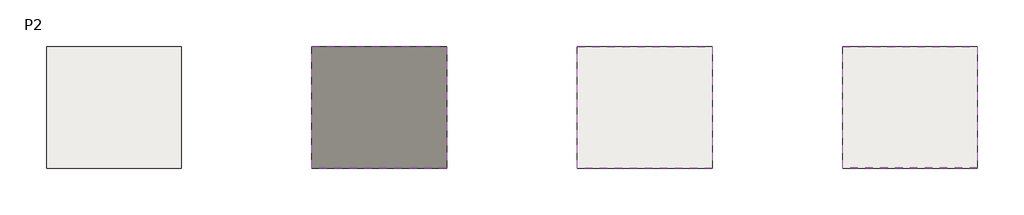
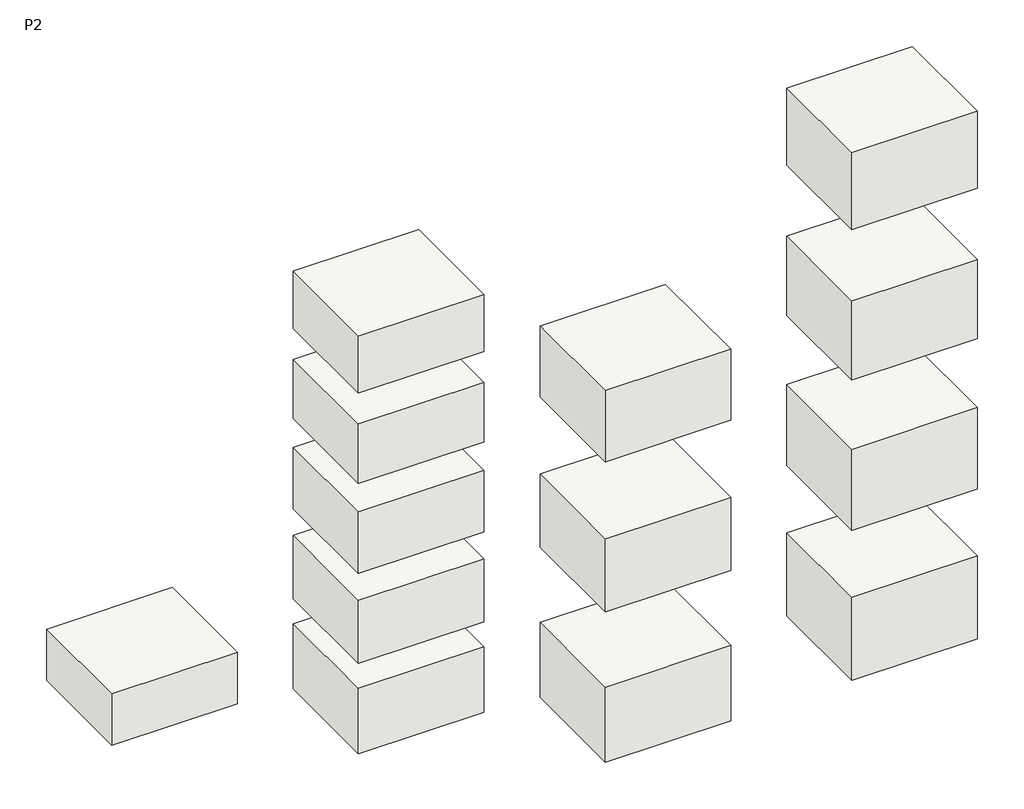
# One storey: 13 slabs.
"""IFC4 building model written with IfcOpenShell, lengths in millimetres."""

from ifc_helpers import new_model, si_unit, frame, origin, place, context, project, spatial, polyline, outline, extrude, element, save

model = new_model("IFC4")

# Units and contexts
model_context = context("Model", 3, world=origin())
ifc_project = project(units=[si_unit("LENGTHUNIT", "METRE", prefix="MILLI")], contexts=[model_context])

# Site, building, storey
site = spatial("IfcSite", under=ifc_project)
building = spatial("IfcBuilding", under=site)
storey = spatial("IfcBuildingStorey", under=building, Name="P2", Elevation=6000.0)

# Slabs
placement = place(None, origin())
element("IfcSlab", 1, ObjectType="INTERCAPEDINE VENTILATA H120", at=placement, inside=storey, context=model_context, shape_type="SweptSolid", body=[
    extrude(outline(polyline([(-4256.1937558, 1686.0689128), (-4256.1937558, -1013.9310872), (-7256.1937558, -1013.9310872), (-7256.1937558, 1686.0689128), (-4256.1937558, 1686.0689128)])), frame((0.0, 0.0, 5770.0000022), z_axis=(0.0, 0.0, 1.0), x_axis=(1.0, 0.0, 0.0)), (0.0, 0.0, 1.0), 1300.0),
])
element("IfcSlab", 2, ObjectType="INTERCAPEDINE VENTILATA H135", at=placement, inside=storey, context=model_context, shape_type="SweptSolid", body=[
    extrude(outline(polyline([(1643.8062442, 1686.0689128), (1643.8062442, -1013.9310872), (-1356.1937558, -1013.9310872), (-1356.1937558, 1686.0689128), (1643.8062442, 1686.0689128)])), frame((0.0, 0.0, 12610.0000022), z_axis=(0.0, 0.0, 1.0), x_axis=(1.0, 0.0, 0.0)), (0.0, 0.0, 1.0), 1450.0),
])
element("IfcSlab", 3, ObjectType="INTERCAPEDINE VENTILATA H140", at=placement, inside=storey, context=model_context, shape_type="SweptSolid", body=[
    extrude(outline(polyline([(1643.8062442, 1686.0689128), (1643.8062442, -1013.9310872), (-1356.1937558, -1013.9310872), (-1356.1937558, 1686.0689128), (1643.8062442, 1686.0689128)])), frame((0.0, 0.0, 10330.0000022), z_axis=(0.0, 0.0, 1.0), x_axis=(1.0, 0.0, 0.0)), (0.0, 0.0, 1.0), 1500.0),
])
element("IfcSlab", 4, ObjectType="INTERCAPEDINE VENTILATA H145", at=placement, inside=storey, context=model_context, shape_type="SweptSolid", body=[
    extrude(outline(polyline([(1643.8062442, 1686.0689128), (1643.8062442, -1013.9310872), (-1356.1937558, -1013.9310872), (-1356.1937558, 1686.0689128), (1643.8062442, 1686.0689128)])), frame((0.0, 0.0, 8050.0000022), z_axis=(0.0, 0.0, 1.0), x_axis=(1.0, 0.0, 0.0)), (0.0, 0.0, 1.0), 1550.0),
])
element("IfcSlab", 5, ObjectType="INTERCAPEDINE VENTILATA H150", at=placement, inside=storey, context=model_context, shape_type="SweptSolid", body=[
    extrude(outline(polyline([(1643.8062442, 1686.0689128), (1643.8062442, -1013.9310872), (-1356.1937558, -1013.9310872), (-1356.1937558, 1686.0689128), (1643.8062442, 1686.0689128)])), frame((0.0, 0.0, 5770.0000022), z_axis=(0.0, 0.0, 1.0), x_axis=(1.0, 0.0, 0.0)), (0.0, 0.0, 1.0), 1600.0),
])
element("IfcSlab", 6, ObjectType="INTERCAPEDINE VENTILATA H155", at=placement, inside=storey, context=model_context, shape_type="SweptSolid", body=[
    extrude(outline(polyline([(1643.8062442, 1686.0689128), (1643.8062442, -1013.9310872), (-1356.1937558, -1013.9310872), (-1356.1937558, 1686.0689128), (1643.8062442, 1686.0689128)])), frame((0.0, 0.0, 3490.0000022), z_axis=(0.0, 0.0, 1.0), x_axis=(1.0, 0.0, 0.0)), (0.0, 0.0, 1.0), 1650.0),
])
element("IfcSlab", 7, ObjectType="INTERCAPEDINE VENTILATA H170", at=placement, inside=storey, context=model_context, shape_type="SweptSolid", body=[
    extrude(outline(polyline([(7543.8062442, 1686.0689128), (7543.8062442, -1013.9310872), (4543.8062442, -1013.9310872), (4543.8062442, 1686.0689128), (7543.8062442, 1686.0689128)])), frame((0.0, 0.0, 8810.0000022), z_axis=(0.0, 0.0, 1.0), x_axis=(1.0, 0.0, 0.0)), (0.0, 0.0, 1.0), 1800.0),
])
element("IfcSlab", 8, ObjectType="INTERCAPEDINE VENTILATA H175", at=placement, inside=storey, context=model_context, shape_type="SweptSolid", body=[
    extrude(outline(polyline([(7544.3303442, 1686.0689128), (7544.3303442, -1013.9310872), (4544.3303442, -1013.9310872), (4544.3303442, 1686.0689128), (7544.3303442, 1686.0689128)])), frame((0.0, 0.0, 5010.0000022), z_axis=(0.0, 0.0, 1.0), x_axis=(1.0, 0.0, 0.0)), (0.0, 0.0, 1.0), 1850.0),
])
element("IfcSlab", 9, ObjectType="INTERCAPEDINE VENTILATA H180", at=placement, inside=storey, context=model_context, shape_type="SweptSolid", body=[
    extrude(outline(polyline([(7544.3303442, 1686.0689128), (7544.3303442, -1013.9310872), (4544.3303442, -1013.9310872), (4544.3303442, 1686.0689128), (7544.3303442, 1686.0689128)])), frame((0.0, 0.0, 1210.0000022), z_axis=(0.0, 0.0, 1.0), x_axis=(1.0, 0.0, 0.0)), (0.0, 0.0, 1.0), 1900.0),
])
element("IfcSlab", 10, ObjectType="INTERCAPEDINE VENTILATA H185", at=placement, inside=storey, context=model_context, shape_type="SweptSolid", body=[
    extrude(outline(polyline([(13444.3303442, 1686.0689128), (13444.3303442, -1013.9310872), (10444.3303442, -1013.9310872), (10444.3303442, 1686.0689128), (13444.3303442, 1686.0689128)])), frame((0.0, 0.0, 12610.0000022), z_axis=(0.0, 0.0, 1.0), x_axis=(1.0, 0.0, 0.0)), (0.0, 0.0, 1.0), 1950.0),
])
element("IfcSlab", 11, ObjectType="INTERCAPEDINE VENTILATA H190", at=placement, inside=storey, context=model_context, shape_type="SweptSolid", body=[
    extrude(outline(polyline([(13443.8062442, 1686.0689128), (13443.8062442, -1013.9310872), (10443.8062442, -1013.9310872), (10443.8062442, 1686.0689128), (13443.8062442, 1686.0689128)])), frame((0.0, 0.0, 8810.0000022), z_axis=(0.0, 0.0, 1.0), x_axis=(1.0, 0.0, 0.0)), (0.0, 0.0, 1.0), 2000.0),
])
element("IfcSlab", 12, ObjectType="INTERCAPEDINE VENTILATA H195", at=placement, inside=storey, context=model_context, shape_type="SweptSolid", body=[
    extrude(outline(polyline([(13444.3303442, 1686.0689128), (13444.3303442, -1013.9310872), (10444.3303442, -1013.9310872), (10444.3303442, 1686.0689128), (13444.3303442, 1686.0689128)])), frame((0.0, 0.0, 5010.0), z_axis=(0.0, 0.0, 1.0), x_axis=(1.0, 0.0, 0.0)), (0.0, 0.0, 1.0), 2050.0),
])
element("IfcSlab", 13, ObjectType="INTERCAPEDINE VENTILATA H200", at=placement, inside=storey, context=model_context, shape_type="SweptSolid", body=[
    extrude(outline(polyline([(13444.3303442, 1686.0689128), (13444.3303442, -1013.9310872), (10444.3303442, -1013.9310872), (10444.3303442, 1686.0689128), (13444.3303442, 1686.0689128)])), frame((0.0, 0.0, 1210.0000022), z_axis=(0.0, 0.0, 1.0), x_axis=(1.0, 0.0, 0.0)), (0.0, 0.0, 1.0), 2100.0),
])

save(model, "model.ifc")
